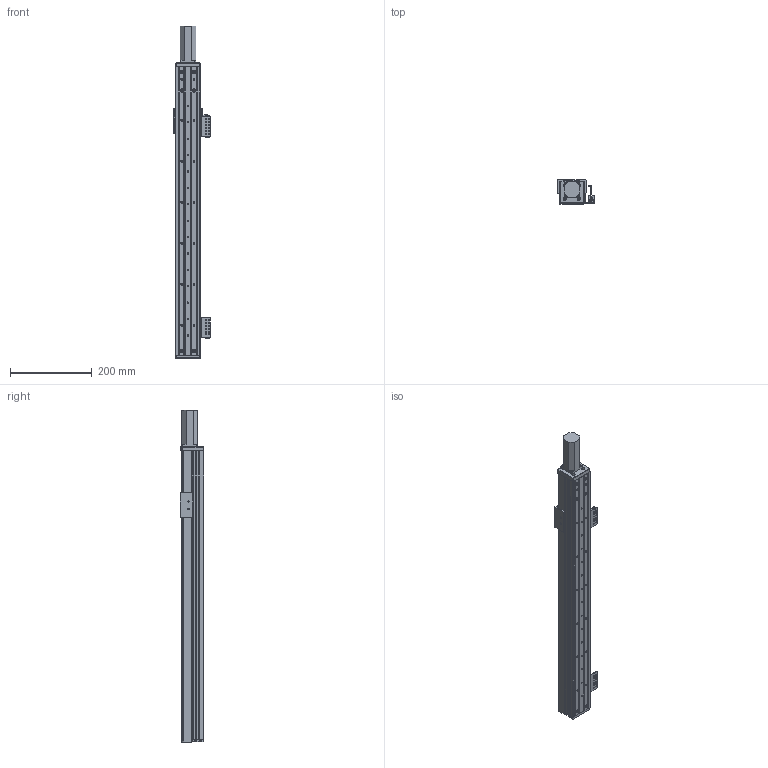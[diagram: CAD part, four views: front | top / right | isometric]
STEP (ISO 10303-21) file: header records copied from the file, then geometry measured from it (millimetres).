
FILE_DESCRIPTION (( 'STEP AP203' ), '1' );
FILE_NAME ('RY60FB-L1210-300-MK.SLDASM_500.step', '2021-02-22T08:25:36', ( '盈信电脑' ), ( '东莞市道滘镇水果街19号' ), 'SwSTEP 2.0', 'SolidWorks 2012', '' );
FILE_SCHEMA (( 'CONFIG_CONTROL_DESIGN' ));
Length unit declared in the file: millimetre
Products named in the file (14): RY60FB-L1210-300-MK.SLDASM_500; RY60FB-674嫖萇耀輸; 覜茼ん674; RY80俋离覜茼え; RY60FB綴裔啣; RY60FB-感应器674光电安装座; 侂狟100W; 滅袉蝶18-10; RY60FB前盖板100(M3); RY60FB-300-奻裔-MK_500; 滅袉蝶18-20; RY60FB-臏賑輸; RY60FB-300-菁釱-MK_500
Assembly tree (18 placements, depth 3):
  RY60FB-L1210-300-MK.SLDASM_500
    RY60FB-300-菁釱-MK_500
    RY60FB-臏賑輸
    滅袉蝶18-20  x2
    滅袉蝶18-10  x2
    RY60FB-300-奻裔-MK_500
    RY60FB前盖板100(M3)
    侂狟100W
    RY60FB綴裔啣
    RY60FB-674嫖萇耀輸
      RY60FB-感应器674光电安装座
      覜茼ん674  x2
    RY80俋离覜茼え
    RY60FB-674嫖萇耀輸
      RY60FB-感应器674光电安装座
      覜茼ん674
Bounding box: 90 x 58.5 x 810 mm (x, y, z)
Volume: 900263.5 mm3; surface area: 487465.4 mm2
Topology: 16 solids, 16 shells, 971 faces, 2680 edges, 1731 vertices
Faces by surface type: plane 474, cylinder 430, cone 67
Entity records: 27360 total; most frequent: CARTESIAN_POINT 5117, DIRECTION 4374, ORIENTED_EDGE 4260, EDGE_CURVE 2130, AXIS2_PLACEMENT_3D 1548, VERTEX_POINT 1387, LINE 1278, VECTOR 1278
